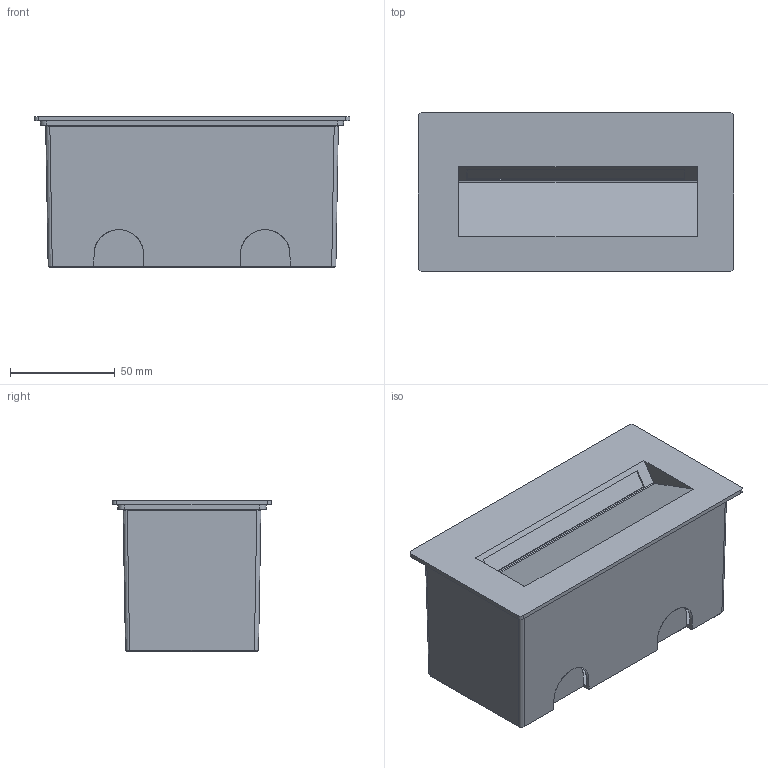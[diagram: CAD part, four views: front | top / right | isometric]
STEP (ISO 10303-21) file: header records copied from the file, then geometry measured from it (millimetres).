
FILE_DESCRIPTION(/* description */ (''),/* implementation_level */ '2;1');
FILE_NAME(/* name */ '70288.step',/* time_stamp */ '2024-10-10T14:52:09+02:00',/* author */ ('RenataManzini'),/* organization */ (''),/* preprocessor_version */ 'ST-DEVELOPER v20',/* originating_system */ 'AutoCAD Mechanical',/* authorisation */ '');
FILE_SCHEMA (('AUTOMOTIVE_DESIGN { 1 0 10303 214 3 1 1 }'));
Length unit declared in the file: millimetre
Products named in the file (3): Product; MANI - MANI-467653-_3D_; MANI - MANI_dwg-467315-_3D_
Assembly tree (2 placements, depth 3):
  Product
    MANI - MANI-467653-_3D_
      MANI - MANI_dwg-467315-_3D_
Bounding box: 151 x 76 x 72 mm (x, y, z)
Volume: 254396.3 mm3; surface area: 107816.5 mm2
Topology: 2 solids, 200 shells, 229 faces, 1311 edges, 1393 vertices
Faces by surface type: plane 125, cylinder 96, bspline 4, torus 4
Entity records: 22394 total; most frequent: CARTESIAN_POINT 12955, DIRECTION 1466, ORIENTED_EDGE 1276, EDGE_CURVE 1204, VERTEX_POINT 1180, LINE 864, VECTOR 864, B_SPLINE_CURVE_WITH_KNOTS 366
